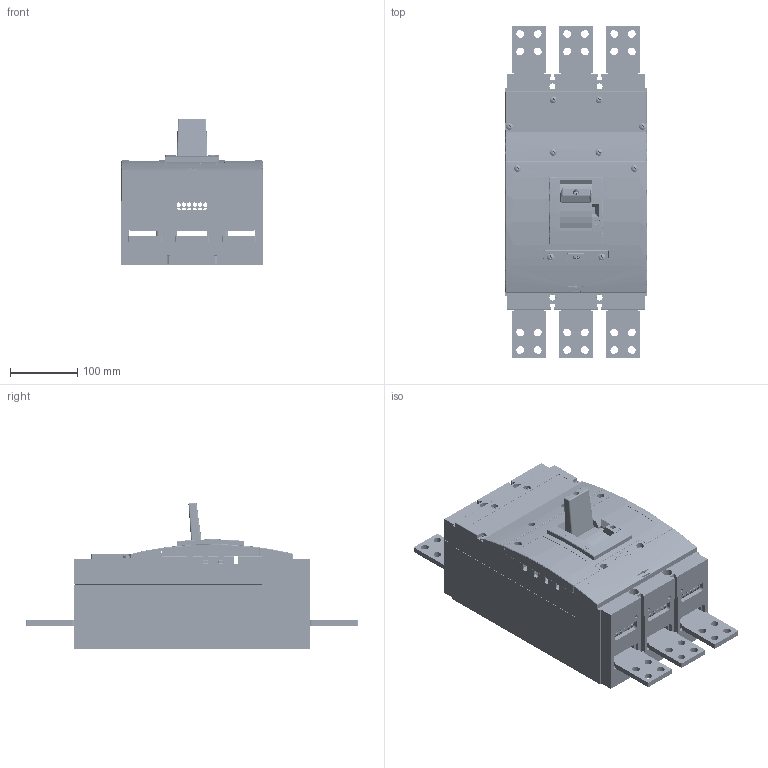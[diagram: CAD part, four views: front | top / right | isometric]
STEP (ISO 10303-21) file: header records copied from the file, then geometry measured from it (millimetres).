
FILE_DESCRIPTION (( 'STEP AP214' ), '1' );
FILE_NAME ('BL1000SE305__SE-BL-J.step', '2011-09-07T12:38:28', ( 'Radek Veselý' ), ( 'Siemens and Partners' ), 'SwSTEP 2.0', 'SolidWorks 2006303', '' );
FILE_SCHEMA (( 'AUTOMOTIVE_DESIGN' ));
Length unit declared in the file: millimetre
Products named in the file (1): BL1000SE305__SE-BL-J
Bounding box: 210 x 494 x 218.52 mm (x, y, z)
Volume: 3510913.9 mm3; surface area: 1345611.4 mm2
Topology: 41 solids, 41 shells, 6053 faces, 16614 edges, 10639 vertices
Faces by surface type: plane 3315, cylinder 2089, cone 222, sphere 158, torus 139, bspline 130
Entity records: 270725 total; most frequent: CARTESIAN_POINT 48474, ORIENTED_EDGE 32962, DIRECTION 31980, EDGE_CURVE 16481, VECTOR 10692, LINE 10692, AXIS2_PLACEMENT_3D 10644, VERTEX_POINT 10629
